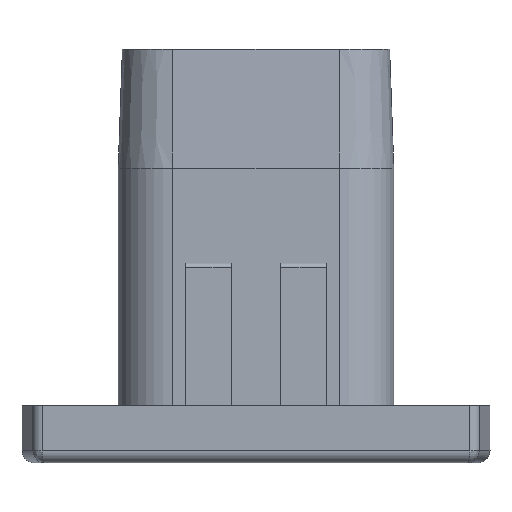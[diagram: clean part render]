
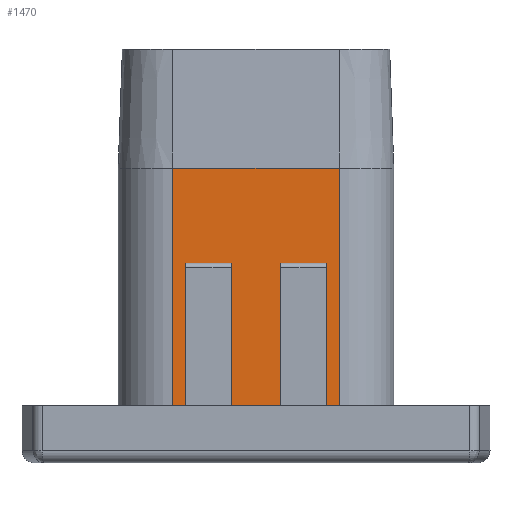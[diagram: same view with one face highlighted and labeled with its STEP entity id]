
A CAD part, left-side view. The second image highlights one B-rep face of the part: STEP entity #1470.
In plain terms, the highlighted planar face has unit normal (-1, 0, 0).
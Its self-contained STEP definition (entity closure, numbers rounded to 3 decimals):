
#50 = ORIENTED_EDGE ( 'NONE', *, *, #1784, .T. ) ;
#71 = CARTESIAN_POINT ( 'NONE',  ( -2.85, 2.95, -10. ) ) ;
#84 = VERTEX_POINT ( 'NONE', #1750 ) ;
#88 = FACE_OUTER_BOUND ( 'NONE', #404, .T. ) ;
#92 = VECTOR ( 'NONE', #1316, 1000. ) ;
#94 = CARTESIAN_POINT ( 'NONE',  ( -2.85, 2.95, -4. ) ) ;
#177 = AXIS2_PLACEMENT_3D ( 'NONE', #1347, #254, #1877 ) ;
#184 = CARTESIAN_POINT ( 'NONE',  ( -2.85, -2.95, -10. ) ) ;
#185 = LINE ( 'NONE', #757, #1981 ) ;
#197 = CARTESIAN_POINT ( 'NONE',  ( -2.85, -3.5, -10. ) ) ;
#211 = EDGE_CURVE ( 'NONE', #1034, #1767, #2223, .T. ) ;
#228 = ORIENTED_EDGE ( 'NONE', *, *, #1118, .T. ) ;
#254 = DIRECTION ( 'NONE',  ( -1., 0., 0. ) ) ;
#258 = CARTESIAN_POINT ( 'NONE',  ( -2.85, -1.05, -10. ) ) ;
#299 = VECTOR ( 'NONE', #630, 1000. ) ;
#318 = VERTEX_POINT ( 'NONE', #1435 ) ;
#331 = ORIENTED_EDGE ( 'NONE', *, *, #617, .T. ) ;
#332 = EDGE_CURVE ( 'NONE', #1615, #608, #185, .T. ) ;
#356 = DIRECTION ( 'NONE',  ( 0., 0., 1. ) ) ;
#404 = EDGE_LOOP ( 'NONE', ( #549, #331, #476, #1584, #574, #1722, #1358, #228, #50, #1066, #1134, #2255 ) ) ;
#405 = EDGE_CURVE ( 'NONE', #1442, #1970, #1362, .T. ) ;
#453 = VECTOR ( 'NONE', #1125, 1000. ) ;
#463 = EDGE_CURVE ( 'NONE', #1762, #608, #1537, .T. ) ;
#476 = ORIENTED_EDGE ( 'NONE', *, *, #332, .T. ) ;
#480 = CARTESIAN_POINT ( 'NONE',  ( -2.85, 2.95, -4. ) ) ;
#488 = CARTESIAN_POINT ( 'NONE',  ( -2.85, -1.05, -4. ) ) ;
#549 = ORIENTED_EDGE ( 'NONE', *, *, #405, .F. ) ;
#574 = ORIENTED_EDGE ( 'NONE', *, *, #1536, .F. ) ;
#583 = DIRECTION ( 'NONE',  ( 0., 0., -1. ) ) ;
#608 = VERTEX_POINT ( 'NONE', #1014 ) ;
#617 = EDGE_CURVE ( 'NONE', #1442, #1615, #1923, .T. ) ;
#624 = DIRECTION ( 'NONE',  ( 0., 0., -1. ) ) ;
#630 = DIRECTION ( 'NONE',  ( 0., 1., 0. ) ) ;
#645 = PLANE ( 'NONE',  #177 ) ;
#650 = VECTOR ( 'NONE', #356, 1000. ) ;
#655 = CARTESIAN_POINT ( 'NONE',  ( -2.85, 2.95, -10. ) ) ;
#670 = VECTOR ( 'NONE', #1616, 1000. ) ;
#673 = CARTESIAN_POINT ( 'NONE',  ( -2.85, 3.5, -10. ) ) ;
#708 = CARTESIAN_POINT ( 'NONE',  ( -2.85, -1.05, -10. ) ) ;
#745 = LINE ( 'NONE', #2161, #650 ) ;
#757 = CARTESIAN_POINT ( 'NONE',  ( -2.85, 1.05, -4. ) ) ;
#820 = VERTEX_POINT ( 'NONE', #197 ) ;
#852 = DIRECTION ( 'NONE',  ( 0., -1., 0. ) ) ;
#920 = LINE ( 'NONE', #1135, #92 ) ;
#970 = EDGE_CURVE ( 'NONE', #318, #84, #1398, .T. ) ;
#993 = EDGE_CURVE ( 'NONE', #1443, #1034, #920, .T. ) ;
#1014 = CARTESIAN_POINT ( 'NONE',  ( -2.85, 1.05, -10. ) ) ;
#1034 = VERTEX_POINT ( 'NONE', #2105 ) ;
#1066 = ORIENTED_EDGE ( 'NONE', *, *, #1576, .F. ) ;
#1118 = EDGE_CURVE ( 'NONE', #1767, #820, #2348, .T. ) ;
#1125 = DIRECTION ( 'NONE',  ( 0., 0., 1. ) ) ;
#1134 = ORIENTED_EDGE ( 'NONE', *, *, #970, .F. ) ;
#1135 = CARTESIAN_POINT ( 'NONE',  ( -2.85, 2.95, -4. ) ) ;
#1174 = DIRECTION ( 'NONE',  ( 0., 0., -1. ) ) ;
#1250 = DIRECTION ( 'NONE',  ( 0., -1., 0. ) ) ;
#1285 = EDGE_CURVE ( 'NONE', #318, #1970, #1701, .T. ) ;
#1294 = CARTESIAN_POINT ( 'NONE',  ( -2.85, -3.5, 0. ) ) ;
#1308 = VERTEX_POINT ( 'NONE', #1294 ) ;
#1316 = DIRECTION ( 'NONE',  ( 0., -1., 0. ) ) ;
#1347 = CARTESIAN_POINT ( 'NONE',  ( -2.85, 3.5, -10. ) ) ;
#1358 = ORIENTED_EDGE ( 'NONE', *, *, #211, .T. ) ;
#1362 = LINE ( 'NONE', #655, #1864 ) ;
#1377 = DIRECTION ( 'NONE',  ( 0., -1., 0. ) ) ;
#1398 = LINE ( 'NONE', #2220, #453 ) ;
#1435 = CARTESIAN_POINT ( 'NONE',  ( -2.85, 3.5, -10. ) ) ;
#1442 = VERTEX_POINT ( 'NONE', #94 ) ;
#1443 = VERTEX_POINT ( 'NONE', #2054 ) ;
#1453 = VECTOR ( 'NONE', #852, 1000. ) ;
#1470 = ADVANCED_FACE ( 'NONE', ( #88 ), #645, .T. ) ;
#1536 = EDGE_CURVE ( 'NONE', #1443, #1762, #1778, .T. ) ;
#1537 = LINE ( 'NONE', #258, #299 ) ;
#1576 = EDGE_CURVE ( 'NONE', #84, #1308, #2113, .T. ) ;
#1584 = ORIENTED_EDGE ( 'NONE', *, *, #463, .F. ) ;
#1615 = VERTEX_POINT ( 'NONE', #1966 ) ;
#1616 = DIRECTION ( 'NONE',  ( 0., 0., -1. ) ) ;
#1620 = VECTOR ( 'NONE', #1174, 1000. ) ;
#1701 = LINE ( 'NONE', #1775, #1844 ) ;
#1722 = ORIENTED_EDGE ( 'NONE', *, *, #993, .T. ) ;
#1750 = CARTESIAN_POINT ( 'NONE',  ( -2.85, 3.5, 0. ) ) ;
#1753 = DIRECTION ( 'NONE',  ( 0., -1., 0. ) ) ;
#1762 = VERTEX_POINT ( 'NONE', #708 ) ;
#1767 = VERTEX_POINT ( 'NONE', #2146 ) ;
#1775 = CARTESIAN_POINT ( 'NONE',  ( -2.85, 3.5, -10. ) ) ;
#1778 = LINE ( 'NONE', #488, #1620 ) ;
#1784 = EDGE_CURVE ( 'NONE', #820, #1308, #745, .T. ) ;
#1844 = VECTOR ( 'NONE', #1250, 1000. ) ;
#1845 = VECTOR ( 'NONE', #1753, 1000. ) ;
#1864 = VECTOR ( 'NONE', #624, 1000. ) ;
#1877 = DIRECTION ( 'NONE',  ( 0., -1., 0. ) ) ;
#1923 = LINE ( 'NONE', #480, #2310 ) ;
#1933 = CARTESIAN_POINT ( 'NONE',  ( -2.85, 3.5, 0. ) ) ;
#1966 = CARTESIAN_POINT ( 'NONE',  ( -2.85, 1.05, -4. ) ) ;
#1970 = VERTEX_POINT ( 'NONE', #71 ) ;
#1981 = VECTOR ( 'NONE', #583, 1000. ) ;
#2054 = CARTESIAN_POINT ( 'NONE',  ( -2.85, -1.05, -4. ) ) ;
#2105 = CARTESIAN_POINT ( 'NONE',  ( -2.85, -2.95, -4. ) ) ;
#2113 = LINE ( 'NONE', #1933, #1453 ) ;
#2146 = CARTESIAN_POINT ( 'NONE',  ( -2.85, -2.95, -10. ) ) ;
#2161 = CARTESIAN_POINT ( 'NONE',  ( -2.85, -3.5, -10. ) ) ;
#2220 = CARTESIAN_POINT ( 'NONE',  ( -2.85, 3.5, -10. ) ) ;
#2223 = LINE ( 'NONE', #184, #670 ) ;
#2255 = ORIENTED_EDGE ( 'NONE', *, *, #1285, .T. ) ;
#2310 = VECTOR ( 'NONE', #1377, 1000. ) ;
#2348 = LINE ( 'NONE', #673, #1845 ) ;
